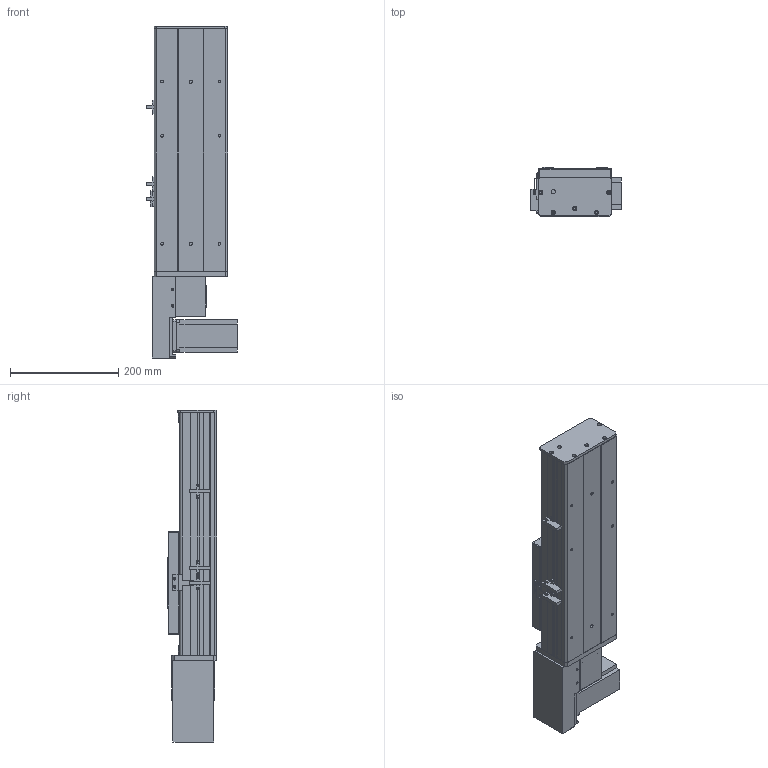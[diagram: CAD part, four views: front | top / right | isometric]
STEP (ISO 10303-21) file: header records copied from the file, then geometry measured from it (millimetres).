
FILE_DESCRIPTION (( 'STEP AP203' ), '1' );
FILE_NAME ('Y135CB-D90-S150-BR-P400W.STEP', '2020-02-18T02:06:30', ( '微软用户' ), ( '微软中国' ), 'SwSTEP 2.0', 'SolidWorks 2017', '' );
FILE_SCHEMA (( 'CONFIG_CONTROL_DESIGN' ));
Length unit declared in the file: millimetre
Products named in the file (18): Y10B-耜蚾蟀諉啣----; Y100-135俋离換覜ん--; Y俋欶BR----; Y135C-陔俋离換覜結え-; 0B-埴倛裔啣; 5C--俋欶; 0B-源倛裔啣; C-雄赽釱--; 0B-萇儂楊擘啣; Y10B--々湍喘謫眊--666; san松下电机400不带刹车----; Y135CB-耜裔; Y135CB-D90-S150-BR-P400W; 5CB --掛极耜裔啣-; 135CB---遴掛极.-; C-詩湍揤踡え-陔; 35CB---喘謫眊楊擘啣; 135CB--詩湍-CE
Assembly tree (21 placements, depth 2):
  Y135CB-D90-S150-BR-P400W
    Y135CB-耜裔
    135CB---遴掛极.-
    35CB---喘謫眊楊擘啣
    Y10B-耜蚾蟀諉啣----
    Y俋欶BR----
    0B-埴倛裔啣
    0B-源倛裔啣
    0B-萇儂楊擘啣
    san松下电机400不带刹车----
    5CB --掛极耜裔啣-  x2
    C-詩湍揤踡え-陔  x2
    135CB--詩湍-CE
    Y100-135俋离換覜ん--  x3
    Y135C-陔俋离換覜結え-
    5C--俋欶
    C-雄赽釱--
    Y10B--々湍喘謫眊--666
Bounding box: 167.5 x 91 x 614.5 mm (x, y, z)
Volume: 2179870.8 mm3; surface area: 831207.5 mm2
Topology: 21 solids, 21 shells, 929 faces, 2455 edges, 1626 vertices
Faces by surface type: plane 458, cylinder 455, cone 16
Entity records: 28533 total; most frequent: DIRECTION 4735, CARTESIAN_POINT 4636, ORIENTED_EDGE 4386, EDGE_CURVE 2193, AXIS2_PLACEMENT_3D 1717, VERTEX_POINT 1454, LINE 1301, VECTOR 1301
